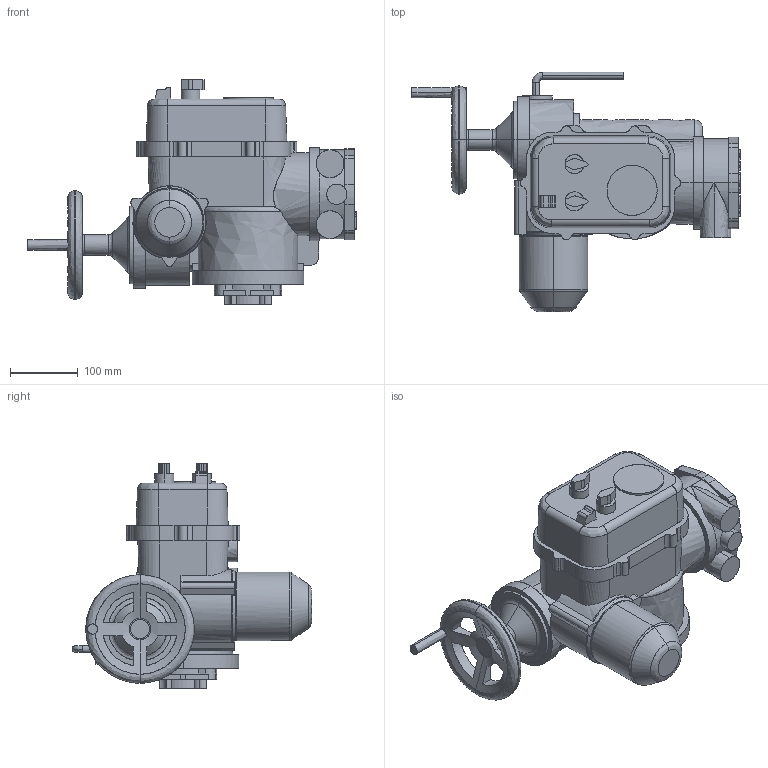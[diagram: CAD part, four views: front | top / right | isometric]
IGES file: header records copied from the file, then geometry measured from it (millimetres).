
Start section: Comment
Global section: file name: Q300PAK+F07-1.igs; native system:  By Spatial Corp.; preprocessor: XPlus PS/IGES 3.0; author: Paul Exton; organization: Rotork Controls Ltd; date: 20030616.141204; units: millimetre
Bounding box: 484.6 x 353.51 x 331.4 mm (x, y, z)
Surface area: 488816.6 mm2 (no closed solid volume)
Topology: 0 solids, 0 shells, 466 faces, 2628 edges, 2620 vertices
Faces by surface type: bspline 466
